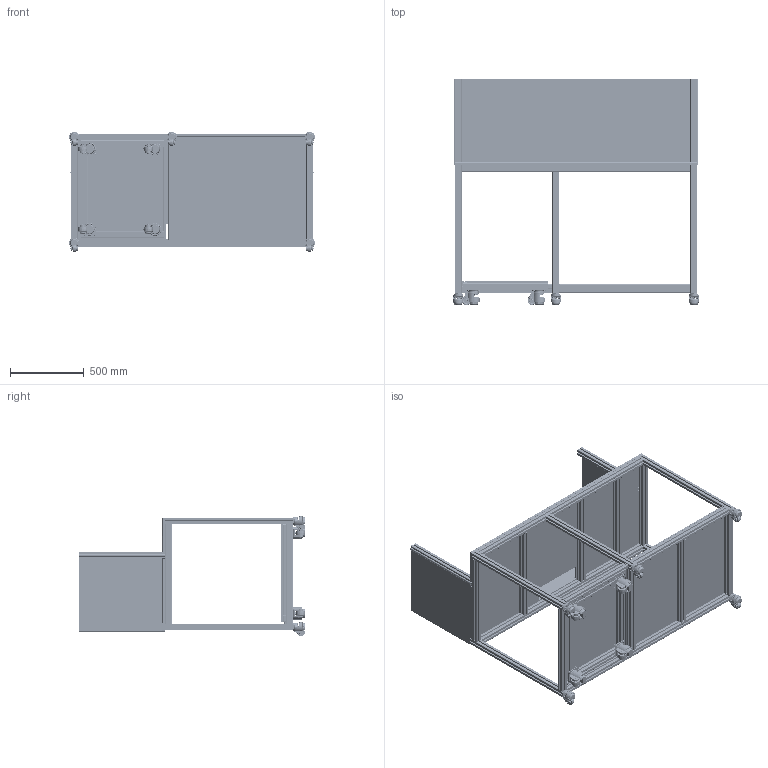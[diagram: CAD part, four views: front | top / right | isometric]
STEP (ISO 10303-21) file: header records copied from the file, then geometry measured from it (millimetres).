
FILE_DESCRIPTION(/* description */ ('STEP AP214'),/* implementation_level */ '2;1');
FILE_NAME(/* name */ 'C:\MY DOCUMENTS\WEBSITE\DREAMWEAVER\MiniTec\application_pages\workstations\Workstation With Welding Curtain\MH100819-2-MKS-WELDSTATION.stp',/* time_stamp */ '2022-09-27T14:10:29-04:00',/* author */ ('amoles'),/* organization */ (''),/* preprocessor_version */ 'ST-DEVELOPER v18.1',/* originating_system */ 'Autodesk Inventor 2022',/* authorisation */ '');
FILE_SCHEMA (('AUTOMOTIVE_DESIGN { 1 0 10303 214 3 1 1 }'));
Products named in the file (46): MH100819-2-MKS-WELDSTATION; 20.1033_20.1033 x 034.00; 20.1033_20.1033 x 057.00; 20.1033_20.1033 x 035.00; 20.1033_20.1033 x 061.00; 21.9414 Leveling Caster 300 S; 21.9414 Leveling Caster 300 S Body; 21.9414 Leveling Caster 300 S Wheel; SET SCREW M12X35 FLAT END; 21.1527 M10 HEX NUT; 20.1033_20.1033 x 033.00; MH100819-2-12; MH100819-2-11; 20.1033_20.1033 x 026.46; POWER SUPPLY CART; 20.1033_20.1033 X 022.43; 20.1033_20.1033 x 022.00; MH100819-2-10; 21.9416 Leveling Caster 600 F; 21.9416 Leveling Caster 600 F Body; 21.9416 Leveling Caster 600 F Wheel; HEX BOLT M8X20 DIN 931; 21.1526 M8 HEX NUT; 22.1004_1 END CAP 45X45 GRAY; 21.9350 HINGE 30 S; 21.9350 HINGE 30 S PIN; 21.9350_HINGE 30 S BODY; 21.9350 HINGE 30 S WASHER; 21.2068 MOUNTING BRACKET 30; 21.2068 MOUNTING BRACKET 30 FEMALE; 21.2068 MOUNTING BRACKET 30 MALE; SET SCREW M5X25 FLAT POINT DIN 913; 21.1264 M8X12; 21.1202  M8 x 20; 21.1570 M8 SQUARE NUT 30 POS FXG_1; 20.1033_20.1033 x 022.75; M8-30 W_NUT; 21.1516 M8x30 C''SUNK; 21.1351_2; 21.1018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
Assembly tree (136 placements, depth 4):
  MH100819-2-MKS-WELDSTATION
    20.1033_20.1033 x 034.00  x2
    20.1033_20.1033 x 057.00  x2
    20.1033_20.1033 x 061.00  x3
    20.1033_20.1033 x 026.46  x9
    20.1033_20.1033 x 035.00
    21.9414 Leveling Caster 300 S  x5
      21.9414 Leveling Caster 300 S Body
      21.9414 Leveling Caster 300 S Wheel
      SET SCREW M12X35 FLAT END
      21.1527 M10 HEX NUT
    20.1033_20.1033 x 033.00
    MH100819-2-12
    MH100819-2-11
    POWER SUPPLY CART
      20.1033_20.1033 x 022.00  x2
      20.1033_20.1033 X 022.43  x2
      MH100819-2-10
      M8-30 W_NUT  x8
        21.1351_2
      21.9416 Leveling Caster 600 F  x4
        21.9416 Leveling Caster 600 F Body
        21.9416 Leveling Caster 600 F Wheel
        HEX BOLT M8X20 DIN 931
        21.1526 M8 HEX NUT
      22.1004_1 END CAP 45X45 GRAY  x4
    21.9350 HINGE 30 S
      21.9350 HINGE 30 S PIN
      21.9350_HINGE 30 S BODY  x2
      21.9350 HINGE 30 S WASHER  x3
    21.2068 MOUNTING BRACKET 30
      21.2068 MOUNTING BRACKET 30 FEMALE
      21.2068 MOUNTING BRACKET 30 MALE
      SET SCREW M5X25 FLAT POINT DIN 913
      21.1264 M8X12
      21.1202  M8 x 20
      21.1570 M8 SQUARE NUT 30 POS FXG_1
    20.1033_20.1033 x 022.75
    M8-30 W_NUT  x22
      21.1351_2
    21.1018  x27
      21.1018 POWER-LOCK BODY
      21.1018 M8x16 POWER-LOCK SET SCREW
      21.1189 POWER-LOCK SCREW
    20.1033_20.1033 x 023.00  x2
    5UZ24
    22.1078_23.  x4
  21.1516 M8x30 C''SUNK
Bounding box: 1665.4 x 1530.94 x 814.03 mm (x, y, z)
Volume: 59635361.1 mm3; surface area: 20391054.6 mm2
Topology: 305 solids, 354 shells, 13731 faces, 37324 edges, 24071 vertices
Faces by surface type: plane 7045, cylinder 4162, torus 820, cone 700, bspline 529, sphere 475
Full cylindrical faces by diameter (mm): 1.6 x4, 2 x4, 2.05 x5, 2.5 x10, 3 x9, 4 x4, 4.5 x2, 5 x10, 5.5 x4, 6 x8, 6.5 x2, 6.647 x26, 6.8 x30, 8 x174, 8.1 x27, 8.376 x5, 8.7 x9, 8.992 x1, 9 x31, 9.5 x16, 10 x29, 10.106 x5, 10.2 x5, 10.5 x10, 11.6 x16, 12 x106, 12.2 x4, 12.5 x4, 12.9 x8, 13 x12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
Entity records: 218793 total; most frequent: CARTESIAN_POINT 124103, ORIENTED_EDGE 19415, DIRECTION 19188, EDGE_CURVE 9729, AXIS2_PLACEMENT_3D 6799, VERTEX_POINT 6394, LINE 5590, VECTOR 5590
